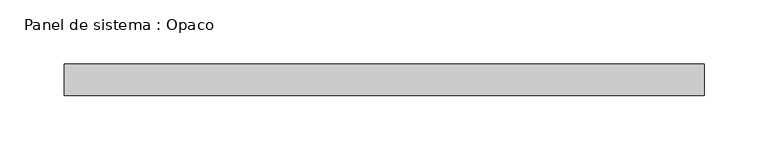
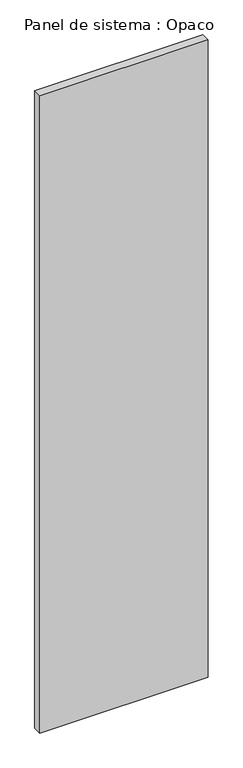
"""IFC4 building model written with IfcOpenShell, lengths in millimetres: plate geometry, Panel de sistema : Opaco."""

import ifcopenshell
import ifcopenshell.guid

model = None  # the IFC model being written
_history = None  # IfcOwnerHistory: only IFC2X3 demands one
_inside = {}  # id of a spatial element -> (the spatial element, [elements in it])
_under = {}  # id of a project, library or spatial element -> (it, [spatial elements below it])
_declared = {}  # id of a project -> (the project, [libraries it declares])
_typed = {}  # id of a type object -> (the type object, [elements of that type])
_made_of = {}  # id of a material, layer set ... -> (it, [elements and type objects made of it])


def new_model(schema):
    """Start an empty IFC model of exactly this schema.

    Asked for "IFC4X3", IfcOpenShell would pick the latest addendum, in which some entities
    have other attributes; the version numbers below select the first issue.
    IFC2X3 requires an IfcOwnerHistory on every rooted entity: one is made here for all.
    """
    global model, _history
    if schema == "IFC4X3":
        model = ifcopenshell.file(schema_version=(4, 3, 0, 0))
    else:
        model = ifcopenshell.file(schema=schema)
    _inside.clear()
    _under.clear()
    _declared.clear()
    _typed.clear()
    _made_of.clear()
    _history = None
    if model.schema == "IFC2X3":
        org = make("IfcOrganization", Name="unknown")
        user = make(
            "IfcPersonAndOrganization",
            ThePerson=make("IfcPerson", FamilyName="unknown"),
            TheOrganization=org,
        )
        app = make(
            "IfcApplication",
            ApplicationDeveloper=org,
            Version="unknown",
            ApplicationFullName="unknown",
            ApplicationIdentifier="unknown",
        )
        _history = make(
            "IfcOwnerHistory",
            OwningUser=user,
            OwningApplication=app,
            ChangeAction="ADDED",
            CreationDate=0,
        )
    return model


def make(cls, **values):
    """One entity of the class cls with the attributes given. An attribute that is None is left unset."""
    return model.create_entity(
        cls, **{name: value for name, value in values.items() if value is not None}
    )


def rooted(cls, **values):
    """An entity with a GlobalId (a new one), such as an element, a storey or a relation."""
    return make(cls, GlobalId=ifcopenshell.guid.new(), OwnerHistory=_history, **values)


def si_unit(unit_type, name, prefix=None):
    """IfcSIUnit, for example si_unit("LENGTHUNIT", "METRE", prefix="MILLI")."""
    return make("IfcSIUnit", UnitType=unit_type, Prefix=prefix, Name=name)


def assignment(units):
    """IfcUnitAssignment: the units of a project."""
    return None if units is None else make("IfcUnitAssignment", Units=units)


def point(xyz):
    """IfcCartesianPoint."""
    return None if xyz is None else make("IfcCartesianPoint", Coordinates=xyz)


def direction(xyz):
    """IfcDirection."""
    return None if xyz is None else make("IfcDirection", DirectionRatios=xyz)


def frame(location, z_axis=None, x_axis=None):
    """IfcAxis2Placement3D, a coordinate frame: its origin and axes. An axis left out is left unset."""
    return make(
        "IfcAxis2Placement3D",
        Location=point(location),
        Axis=direction(z_axis),
        RefDirection=direction(x_axis),
    )


def origin():
    """The frame at (0, 0, 0) with its axes left unset."""
    return frame((0.0, 0.0, 0.0))


def origin_with_axes():
    """The frame at (0, 0, 0) with the z axis (0, 0, 1) and the x axis (1, 0, 0) written out."""
    return frame((0.0, 0.0, 0.0), z_axis=(0.0, 0.0, 1.0), x_axis=(1.0, 0.0, 0.0))


def place(relative_to, where):
    """IfcLocalPlacement: puts the frame where relative to a parent placement (None: the world)."""
    return make(
        "IfcLocalPlacement", PlacementRelTo=relative_to, RelativePlacement=where
    )


def context(
    kind, dimensions, precision=None, world=None, true_north=None, identifier=None
):
    """IfcGeometricRepresentationContext, for example the 3D "Model" context."""
    return make(
        "IfcGeometricRepresentationContext",
        ContextIdentifier=identifier,
        ContextType=kind,
        CoordinateSpaceDimension=dimensions,
        Precision=precision,
        WorldCoordinateSystem=world,
        TrueNorth=true_north,
    )


def project(units=None, contexts=None):
    """IfcProject with its units and contexts."""
    return rooted(
        "IfcProject",
        Name="project",
        RepresentationContexts=contexts,
        UnitsInContext=assignment(units),
    )


def spatial(cls, under=None, at=None, **own):
    """A site, building, storey or space (cls), placed at a placement, below another one or the project."""
    s = rooted(cls, ObjectPlacement=at, **own)
    if under is not None:
        _under.setdefault(under.id(), (under, []))[1].append(s)
    return s


def polyline(points):
    """IfcPolyline through the points."""
    return make("IfcPolyline", Points=[point(p) for p in points])


def outline(outer, holes=None, kind="AREA"):
    """IfcArbitraryClosedProfileDef: a profile drawn as a closed curve; with holes, ...WithVoids."""
    if holes is None:
        return make("IfcArbitraryClosedProfileDef", ProfileType=kind, OuterCurve=outer)
    return make(
        "IfcArbitraryProfileDefWithVoids",
        ProfileType=kind,
        OuterCurve=outer,
        InnerCurves=holes,
    )


def extrude(swept, where, along, depth):
    """IfcExtrudedAreaSolid: the profile swept, set in the frame where, extruded along a direction by depth."""
    return make(
        "IfcExtrudedAreaSolid",
        SweptArea=swept,
        Position=where,
        ExtrudedDirection=direction(along),
        Depth=depth,
    )


def shape(context_of_items, identifier, shape_type, items):
    """IfcShapeRepresentation: the items that make up one representation, for example the "Body"."""
    return make(
        "IfcShapeRepresentation",
        ContextOfItems=context_of_items,
        RepresentationIdentifier=identifier,
        RepresentationType=shape_type,
        Items=items,
    )


def source(mapping_origin, context_of_items, identifier, shape_type, items):
    """IfcRepresentationMap: a shape defined once, which mapped items show again and again."""
    return make(
        "IfcRepresentationMap",
        MappingOrigin=mapping_origin,
        MappedRepresentation=shape(context_of_items, identifier, shape_type, items),
    )


def transform(
    local_origin,
    x_axis=None,
    y_axis=None,
    z_axis=None,
    scale=None,
    scale2=None,
    scale3=None,
    uniform=True,
):
    """IfcCartesianTransformationOperator3D, or its non-uniform kind. x_axis, y_axis, z_axis: its Axis1, 2, 3."""
    if uniform:
        return make(
            "IfcCartesianTransformationOperator3D",
            Axis1=direction(x_axis),
            Axis2=direction(y_axis),
            LocalOrigin=point(local_origin),
            Scale=scale,
            Axis3=direction(z_axis),
        )
    return make(
        "IfcCartesianTransformationOperator3DnonUniform",
        Axis1=direction(x_axis),
        Axis2=direction(y_axis),
        LocalOrigin=point(local_origin),
        Scale=scale,
        Axis3=direction(z_axis),
        Scale2=scale2,
        Scale3=scale3,
    )


def mapped(mapping_source, mapping_target):
    """IfcMappedItem: shows the shape of a source again, moved by a transform."""
    return make(
        "IfcMappedItem", MappingSource=mapping_source, MappingTarget=mapping_target
    )


def made_of(thing, what):
    """Note that an element or type object is made of a material, layer set ...; save() writes the relation."""
    if what is not None:
        _made_of.setdefault(what.id(), (what, []))[1].append(thing)
    return thing


def element(
    cls,
    number,
    at=None,
    inside=None,
    cuts=None,
    type_object=None,
    material=None,
    context=None,
    identifier="Body",
    shape_type=None,
    held_by="IfcProductDefinitionShape",
    body=None,
    shapes=None,
    **own,
):
    """One element of the class cls, such as IfcWall. Its Tag is "e" and its number.

    at: its placement. inside: the storey or other place that contains it. cuts: it is an
    opening in that element (IfcRelVoidsElement). A single representation is given by context,
    identifier, shape_type and body (its items); several are given by shapes. held_by: the class
    of the entity that holds the representations. save() writes the other relations.
    """
    e = rooted(cls, Tag="e%d" % number, ObjectPlacement=at, **own)
    if body is not None:
        shapes = [shape(context, identifier, shape_type, body)]
    if shapes is not None:
        e.Representation = make(held_by, Representations=shapes)
    if inside is not None:
        _inside.setdefault(inside.id(), (inside, []))[1].append(e)
    if cuts is not None:
        rooted(
            "IfcRelVoidsElement", RelatingBuildingElement=cuts, RelatedOpeningElement=e
        )
    if type_object is not None:
        _typed.setdefault(type_object.id(), (type_object, []))[1].append(e)
    return made_of(e, material)


def aggregate(whole, parts):
    """IfcRelAggregates: a whole, such as a stair, and the parts it consists of."""
    return rooted("IfcRelAggregates", RelatingObject=whole, RelatedObjects=parts)


def save(model, path):
    """Write the relations noted so far, then the file.

    IfcRelAggregates (storeys below a building ...), IfcRelContainedInSpatialStructure (elements
    in a storey), IfcRelDefinesByType, IfcRelAssociatesMaterial and IfcRelDeclares: one each for
    every whole, place, type object, material and project.
    """
    for whole, parts in _under.values():
        aggregate(whole, parts)
    for where, things in _inside.values():
        rooted(
            "IfcRelContainedInSpatialStructure",
            RelatedElements=things,
            RelatingStructure=where,
        )
    for kind, things in _typed.values():
        rooted("IfcRelDefinesByType", RelatedObjects=things, RelatingType=kind)
    for what, things in _made_of.values():
        rooted("IfcRelAssociatesMaterial", RelatedObjects=things, RelatingMaterial=what)
    for by, libraries in _declared.values():
        rooted("IfcRelDeclares", RelatingContext=by, RelatedDefinitions=libraries)
    model.write(path)


def panel_de_sistema_opaco_64d52f82(model_context):
    return source(origin(), model_context, "Body", "SweptSolid", [
        extrude(outline(polyline([(250.0, -12.5), (-250.0, -12.5), (-250.0, 12.5), (250.0, 12.5), (250.0, -12.5)])), origin_with_axes(), (0.0, 0.0, 1.0), 2000.0),
    ])


if __name__ == "__main__":
    model = new_model("IFC4")
    model_context = context("Model", 3, world=origin())
    ifc_project = project(units=[si_unit("LENGTHUNIT", "METRE", prefix="MILLI")], contexts=[model_context])
    site = spatial("IfcSite", under=ifc_project)
    building = spatial("IfcBuilding", under=site)
    placement = place(None, origin())
    panel_de_sistema_opaco_shape = panel_de_sistema_opaco_64d52f82(model_context)
    element("IfcPlate", 1, ObjectType="Panel de sistema : Opaco", at=placement, inside=building, context=model_context, shape_type="MappedRepresentation", body=[
        mapped(panel_de_sistema_opaco_shape, transform((0.0, 0.0, 0.0), x_axis=(1.0, 0.0, 0.0), y_axis=(0.0, 1.0, 0.0), z_axis=(0.0, 0.0, 1.0))),
    ])
    save(model, "model.ifc")
